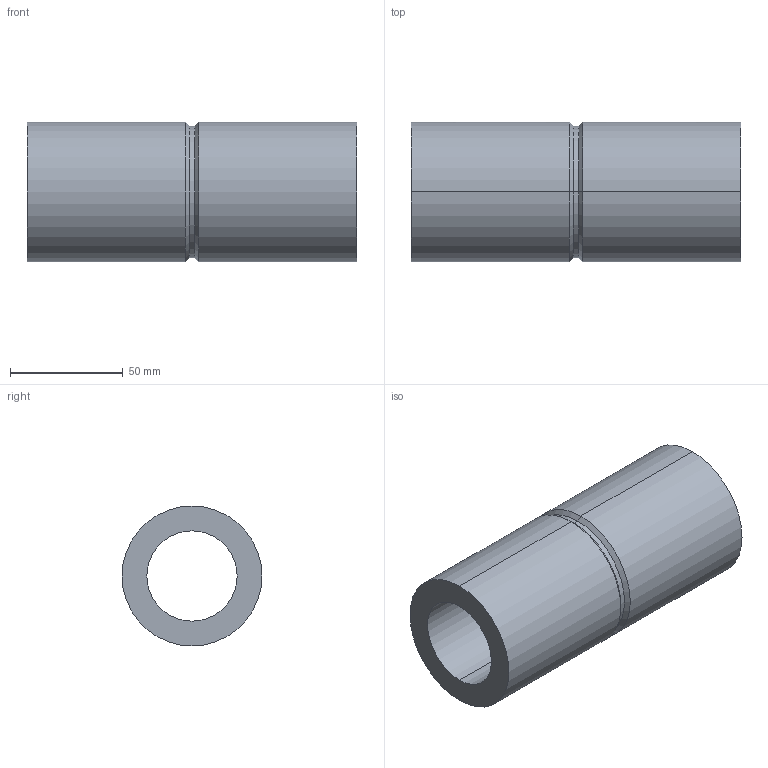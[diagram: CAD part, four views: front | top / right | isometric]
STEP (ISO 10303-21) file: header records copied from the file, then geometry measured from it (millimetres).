
FILE_DESCRIPTION (( 'STEP AP203' ), '1' );
FILE_NAME ('ZD4020-R-2EB.STEP', '2002-08-15T11:55:56', ( '.' ), ( '.' ), 'SwSTEP 2.0', 'SolidWorks 2001340', '' );
FILE_SCHEMA (( 'CONFIG_CONTROL_DESIGN' ));
Length unit declared in the file: millimetre
Products named in the file (1): ZD4020-R-2EB
Bounding box: 146 x 62 x 62 mm (x, y, z)
Volume: 255419.9 mm3; surface area: 50799.5 mm2
Topology: 1 solids, 1 shells, 24 faces, 52 edges, 32 vertices
Faces by surface type: cylinder 12, plane 8, cone 4
Entity records: 837 total; most frequent: CARTESIAN_POINT 221, DIRECTION 118, ORIENTED_EDGE 104, EDGE_CURVE 52, AXIS2_PLACEMENT_3D 45, VERTEX_POINT 32, LINE 28, VECTOR 28
